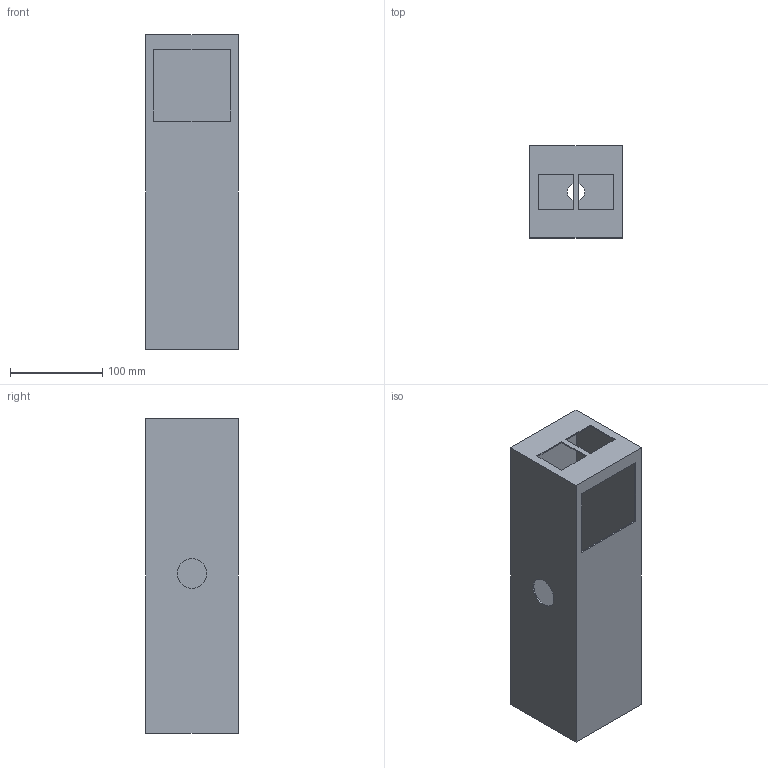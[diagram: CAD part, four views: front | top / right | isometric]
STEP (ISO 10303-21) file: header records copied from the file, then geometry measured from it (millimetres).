
FILE_DESCRIPTION(('Open CASCADE Model'),'2;1');
FILE_NAME('structure_skin','2026-08-12T02:42:45',('Author'),( 'Open CASCADE'),'Open CASCADE STEP processor 7.9','build123d', 'Unknown');
FILE_SCHEMA(('AUTOMOTIVE_DESIGN { 1 0 10303 214 1 1 1 1 }'));
Length unit declared in the file: millimetre
Products named in the file (1): structure_skin
Bounding box: 100 x 100 x 340.5 mm (x, y, z)
Volume: 213739.1 mm3; surface area: 286217 mm2
Topology: 1 solids, 1 shells, 30 faces, 78 edges, 52 vertices
Faces by surface type: plane 28, cylinder 2
Full cylindrical faces by diameter (mm): 19 x1, 32 x1
Entity records: 1886 total; most frequent: CARTESIAN_POINT 381, DIRECTION 236, LINE 162, VECTOR 162, ORIENTED_EDGE 156, PCURVE 156, DEFINITIONAL_REPRESENTATION 156, EDGE_CURVE 78
